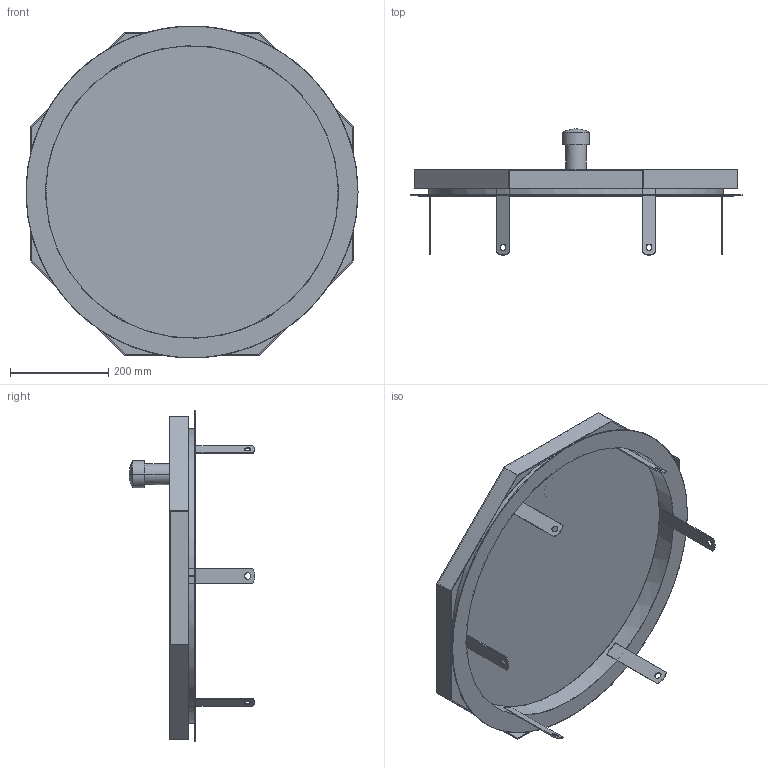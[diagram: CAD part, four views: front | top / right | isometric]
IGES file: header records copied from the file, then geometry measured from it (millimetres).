
Start section:  PTC IGES file: 017_000107.igs
Global section: file name: 017_000107.igs; native system: Creo Parametric by Parametric Technology Corporation; preprocessor: 2017170; author: set; organization: Unknown; date: 20180906.113849; units: millimetre
Bounding box: 675 x 256 x 674.55 mm (x, y, z)
Surface area: 1251320 mm2 (no closed solid volume)
Topology: 0 solids, 0 shells, 83 faces, 450 edges, 448 vertices
Faces by surface type: bspline 53, revolution 30
